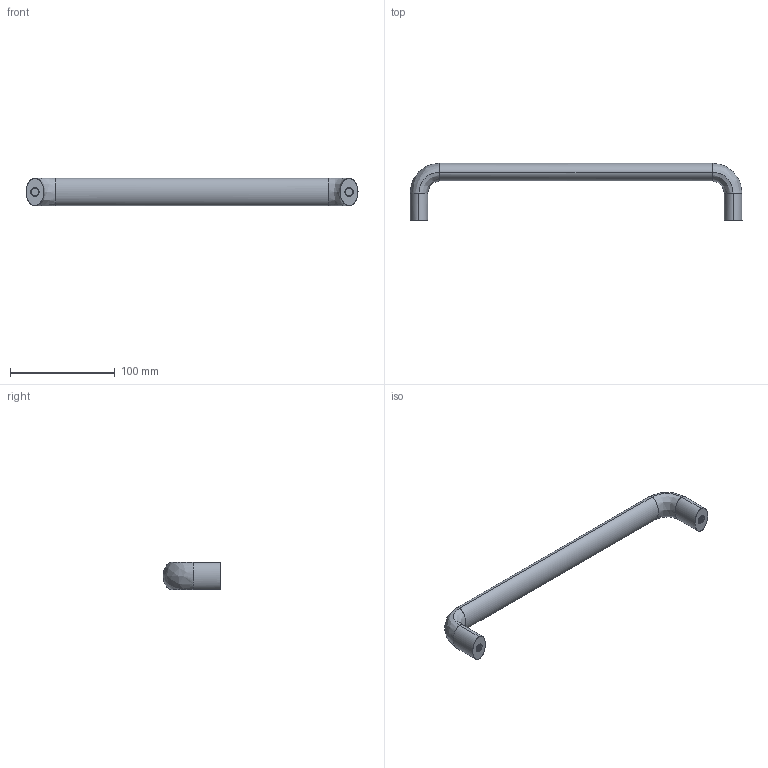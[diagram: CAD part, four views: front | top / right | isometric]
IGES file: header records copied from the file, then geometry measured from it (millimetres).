
Start section: SolidWorks IGES file using analytic representation for surfaces
Global section: file name: C:\Documents and Settings\Deathkiller\桌面\3D IGES\U型把手\MS-740\26\p=300.IGS; native system: SolidWorks 2006 by SolidWorks Corporation; preprocessor: SolidWorks 2006 by SolidWorks Corporation; author: Deathkiller; date: 080624.172715; units: millimetre
Bounding box: 317 x 54.99 x 26 mm (x, y, z)
Surface area: 27075.8 mm2 (no closed solid volume)
Topology: 0 solids, 0 shells, 70 faces, 1626 edges, 1626 vertices
Faces by surface type: revolution 48, bspline 22
